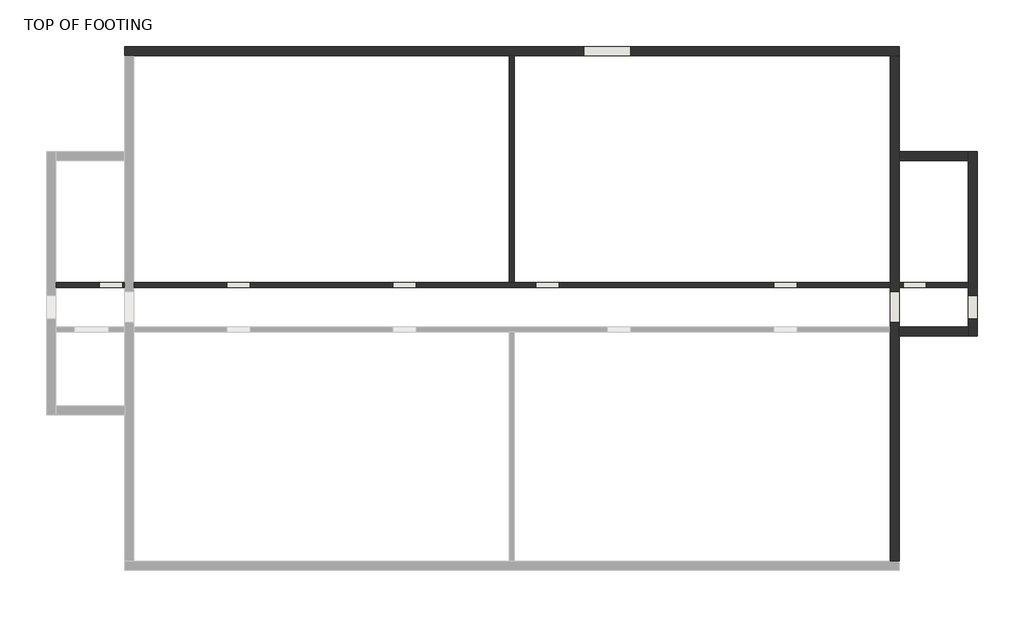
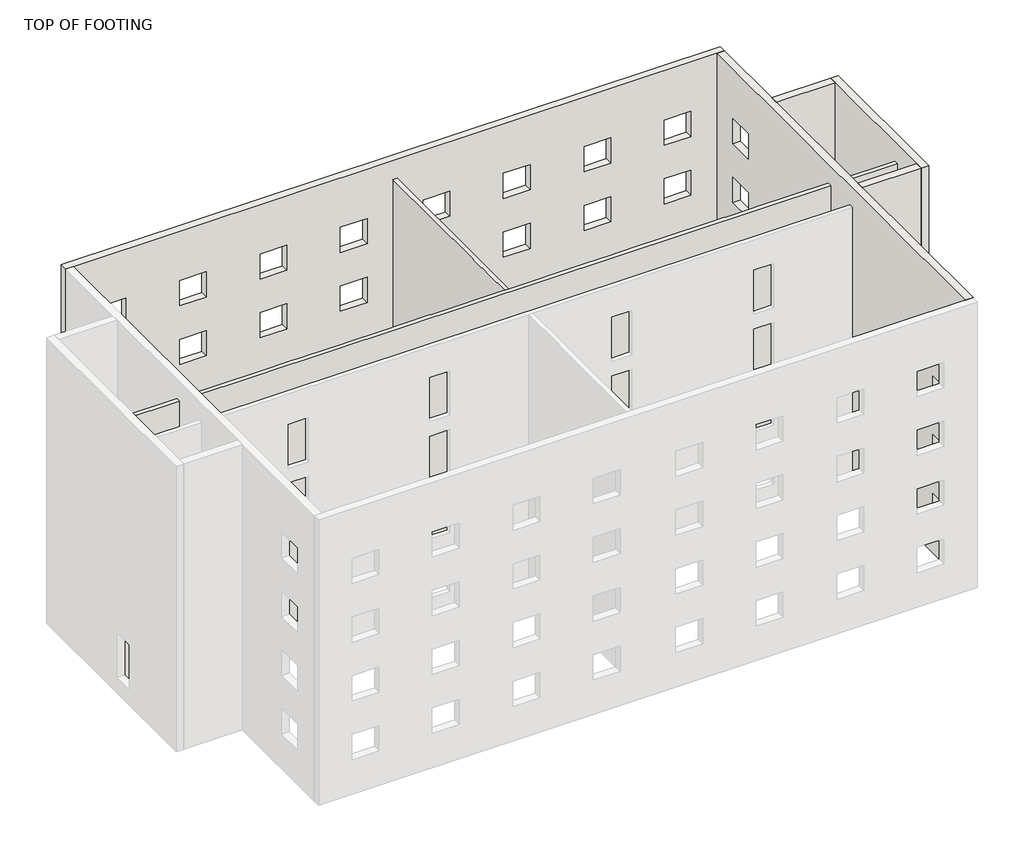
# One storey, part 2 of 2: 8 walls.
"""IFC4 building model written with IfcOpenShell, lengths in millimetres."""

from ifc_helpers import new_model, si_unit, frame, origin, place, context, project, spatial, polyline, outline, extrude, faceted_brep, element, save

model = new_model("IFC4")

# Units and contexts
model_context = context("Model", 3, world=origin())
ifc_project = project(units=[si_unit("LENGTHUNIT", "METRE", prefix="MILLI")], contexts=[model_context])

# Site, building, storey
site = spatial("IfcSite", under=ifc_project)
building = spatial("IfcBuilding", under=site)
storey = spatial("IfcBuildingStorey", under=building, Name="TOP OF FOOTING", Elevation=-762.0)

# Walls
placement = place(None, origin())
element("IfcWall", 1, ObjectType="A30A - 8\" MASONRY WALL", at=placement, inside=storey, context=model_context, shape_type="Brep", body=[
    faceted_brep([(24257.1084875, 6266.4137881, -762.0), (24257.1084875, 6266.4137881, 12141.2), (-5196.8915125, 6266.4137881, 12141.2), (-5196.8915125, 6266.4137881, -762.0), (-664.7415125, 6266.4137881, 0.0), (-1579.1415125, 6266.4137881, 0.0), (-1579.1415125, 6266.4137881, 2133.6), (-664.7415125, 6266.4137881, 2133.6), (11380.1084875, 6266.4137881, 0.0), (10465.7084875, 6266.4137881, 0.0), (10465.7084875, 6266.4137881, 2133.6), (11380.1084875, 6266.4137881, 2133.6), (5815.7584875, 6266.4137881, 0.0), (4901.3584875, 6266.4137881, 0.0), (4901.3584875, 6266.4137881, 2133.6), (5815.7584875, 6266.4137881, 2133.6), (20639.3584875, 6266.4137881, 0.0), (19724.9584875, 6266.4137881, 0.0), (19724.9584875, 6266.4137881, 2133.6), (20639.3584875, 6266.4137881, 2133.6), (-664.7415125, 6266.4137881, 2844.8), (-1579.1415125, 6266.4137881, 2844.8), (-1579.1415125, 6266.4137881, 4978.4), (-664.7415125, 6266.4137881, 4978.4), (5815.7584875, 6266.4137881, 2844.8), (4901.3584875, 6266.4137881, 2844.8), (4901.3584875, 6266.4137881, 4978.4), (5815.7584875, 6266.4137881, 4978.4), (14148.8584875, 6266.4137881, 2844.8), (13234.4584875, 6266.4137881, 2844.8), (13234.4584875, 6266.4137881, 4978.4), (14148.8584875, 6266.4137881, 4978.4), (20650.9584875, 6266.4137881, 2844.8), (19736.5584875, 6266.4137881, 2844.8), (19736.5584875, 6266.4137881, 4978.4), (20650.9584875, 6266.4137881, 4978.4), (-664.7415125, 6266.4137881, 5689.6), (-1579.1415125, 6266.4137881, 5689.6), (-1579.1415125, 6266.4137881, 7823.2), (-664.7415125, 6266.4137881, 7823.2), (5815.7584875, 6266.4137881, 5689.6), (4901.3584875, 6266.4137881, 5689.6), (4901.3584875, 6266.4137881, 7823.2), (5815.7584875, 6266.4137881, 7823.2), (14148.8584875, 6266.4137881, 5689.6), (13234.4584875, 6266.4137881, 5689.6), (13234.4584875, 6266.4137881, 7823.2), (14148.8584875, 6266.4137881, 7823.2), (20650.9584875, 6266.4137881, 5689.6), (19736.5584875, 6266.4137881, 5689.6), (19736.5584875, 6266.4137881, 7823.2), (20650.9584875, 6266.4137881, 7823.2), (-664.7415125, 6266.4137881, 8534.4), (-1579.1415125, 6266.4137881, 8534.4), (-1579.1415125, 6266.4137881, 10668.0), (-664.7415125, 6266.4137881, 10668.0), (5815.7584875, 6266.4137881, 8534.4), (4901.3584875, 6266.4137881, 8534.4), (4901.3584875, 6266.4137881, 10668.0), (5815.7584875, 6266.4137881, 10668.0), (14148.8584875, 6266.4137881, 8534.4), (13234.4584875, 6266.4137881, 8534.4), (13234.4584875, 6266.4137881, 10668.0), (14148.8584875, 6266.4137881, 10668.0), (20650.9584875, 6266.4137881, 8534.4), (19736.5584875, 6266.4137881, 8534.4), (19736.5584875, 6266.4137881, 10668.0), (20650.9584875, 6266.4137881, 10668.0), (24257.1084875, 6460.4137881, 12141.2), (24257.1084875, 6460.4137881, -762.0), (9627.5084875, 6460.4137881, -762.0), (9433.5084875, 6460.4137881, -762.0), (-5196.8915125, 6460.4137881, -762.0), (-5196.8915125, 6460.4137881, 12141.2), (-1855.3665125, 6460.4137881, 12141.2), (-1731.5415125, 6460.4137881, 12141.2), (-512.3415125, 6460.4137881, 12141.2), (-388.5165125, 6460.4137881, 12141.2), (221.0834875, 6460.4137881, 12141.2), (344.9084875, 6460.4137881, 12141.2), (2021.3084875, 6460.4137881, 12141.2), (2215.3084875, 6460.4137881, 12141.2), (3891.7084875, 6460.4137881, 12141.2), (4015.5334875, 6460.4137881, 12141.2), (4625.1334875, 6460.4137881, 12141.2), (4748.9584875, 6460.4137881, 12141.2), (5968.1584875, 6460.4137881, 12141.2), (6091.9834875, 6460.4137881, 12141.2), (9433.5084875, 6460.4137881, 12141.2), (9627.5084875, 6460.4137881, 12141.2), (12969.8334875, 6460.4137881, 12141.2), (13093.6584875, 6460.4137881, 12141.2), (14312.8584875, 6460.4137881, 12141.2), (14436.6834875, 6460.4137881, 12141.2), (15046.2834875, 6460.4137881, 12141.2), (15170.1084875, 6460.4137881, 12141.2), (16845.7084875, 6460.4137881, 12141.2), (17039.7084875, 6460.4137881, 12141.2), (18715.3084875, 6460.4137881, 12141.2), (18839.1334875, 6460.4137881, 12141.2), (19448.7334875, 6460.4137881, 12141.2), (19572.5584875, 6460.4137881, 12141.2), (20791.7584875, 6460.4137881, 12141.2), (20915.5834875, 6460.4137881, 12141.2), (-1579.1415125, 6460.4137881, 0.0), (-664.7415125, 6460.4137881, 0.0), (-664.7415125, 6460.4137881, 2133.6), (-1579.1415125, 6460.4137881, 2133.6), (10465.7084875, 6460.4137881, 0.0), (11380.1084875, 6460.4137881, 0.0), (11380.1084875, 6460.4137881, 2133.6), (10465.7084875, 6460.4137881, 2133.6), (4901.3584875, 6460.4137881, 0.0), (5815.7584875, 6460.4137881, 0.0), (5815.7584875, 6460.4137881, 2133.6), (4901.3584875, 6460.4137881, 2133.6), (19724.9584875, 6460.4137881, 0.0), (20639.3584875, 6460.4137881, 0.0), (20639.3584875, 6460.4137881, 2133.6), (19724.9584875, 6460.4137881, 2133.6), (-1579.1415125, 6460.4137881, 2844.8), (-664.7415125, 6460.4137881, 2844.8), (-664.7415125, 6460.4137881, 4978.4), (-1579.1415125, 6460.4137881, 4978.4), (4901.3584875, 6460.4137881, 2844.8), (5815.7584875, 6460.4137881, 2844.8), (5815.7584875, 6460.4137881, 4978.4), (4901.3584875, 6460.4137881, 4978.4), (13234.4584875, 6460.4137881, 2844.8), (14148.8584875, 6460.4137881, 2844.8), (14148.8584875, 6460.4137881, 4978.4), (13234.4584875, 6460.4137881, 4978.4), (19736.5584875, 6460.4137881, 2844.8), (20650.9584875, 6460.4137881, 2844.8), (20650.9584875, 6460.4137881, 4978.4), (19736.5584875, 6460.4137881, 4978.4), (-1579.1415125, 6460.4137881, 5689.6), (-664.7415125, 6460.4137881, 5689.6), (-664.7415125, 6460.4137881, 7823.2), (-1579.1415125, 6460.4137881, 7823.2), (4901.3584875, 6460.4137881, 5689.6), (5815.7584875, 6460.4137881, 5689.6), (5815.7584875, 6460.4137881, 7823.2), (4901.3584875, 6460.4137881, 7823.2), (13234.4584875, 6460.4137881, 5689.6), (14148.8584875, 6460.4137881, 5689.6), (14148.8584875, 6460.4137881, 7823.2), (13234.4584875, 6460.4137881, 7823.2), (19736.5584875, 6460.4137881, 5689.6), (20650.9584875, 6460.4137881, 5689.6), (20650.9584875, 6460.4137881, 7823.2), (19736.5584875, 6460.4137881, 7823.2), (-1579.1415125, 6460.4137881, 8534.4), (-664.7415125, 6460.4137881, 8534.4), (-664.7415125, 6460.4137881, 10668.0), (-1579.1415125, 6460.4137881, 10668.0), (4901.3584875, 6460.4137881, 8534.4), (5815.7584875, 6460.4137881, 8534.4), (5815.7584875, 6460.4137881, 10668.0), (4901.3584875, 6460.4137881, 10668.0), (13234.4584875, 6460.4137881, 8534.4), (14148.8584875, 6460.4137881, 8534.4), (14148.8584875, 6460.4137881, 10668.0), (13234.4584875, 6460.4137881, 10668.0), (19736.5584875, 6460.4137881, 8534.4), (20650.9584875, 6460.4137881, 8534.4), (20650.9584875, 6460.4137881, 10668.0), (19736.5584875, 6460.4137881, 10668.0)], [[[0, 1, 2, 3], [4, 5, 6, 7], [8, 9, 10, 11], [12, 13, 14, 15], [16, 17, 18, 19], [20, 21, 22, 23], [24, 25, 26, 27], [28, 29, 30, 31], [32, 33, 34, 35], [36, 37, 38, 39], [40, 41, 42, 43], [44, 45, 46, 47], [48, 49, 50, 51], [52, 53, 54, 55], [56, 57, 58, 59], [60, 61, 62, 63], [64, 65, 66, 67]], [[68, 69, 70, 71, 72, 73, 74, 75, 76, 77, 78, 79, 80, 81, 82, 83, 84, 85, 86, 87, 88, 89, 90, 91, 92, 93, 94, 95, 96, 97, 98, 99, 100, 101, 102, 103], [104, 105, 106, 107], [108, 109, 110, 111], [112, 113, 114, 115], [116, 117, 118, 119], [120, 121, 122, 123], [124, 125, 126, 127], [128, 129, 130, 131], [132, 133, 134, 135], [136, 137, 138, 139], [140, 141, 142, 143], [144, 145, 146, 147], [148, 149, 150, 151], [152, 153, 154, 155], [156, 157, 158, 159], [160, 161, 162, 163], [164, 165, 166, 167]], [[69, 0, 3, 72, 71, 70]], [[1, 68, 103, 102, 101, 100, 99, 98, 97, 96, 95, 94, 93, 92, 91, 90, 89, 88, 87, 86, 85, 84, 83, 82, 81, 80, 79, 78, 77, 76, 75, 74, 73, 2]], [[1, 0, 69, 68]], [[3, 2, 73, 72]], [[5, 4, 105, 104]], [[6, 5, 104, 107]], [[7, 6, 107, 106]], [[4, 7, 106, 105]], [[9, 8, 109, 108]], [[10, 9, 108, 111]], [[11, 10, 111, 110]], [[8, 11, 110, 109]], [[113, 112, 13, 12]], [[114, 113, 12, 15]], [[115, 114, 15, 14]], [[112, 115, 14, 13]], [[117, 116, 17, 16]], [[118, 117, 16, 19]], [[119, 118, 19, 18]], [[116, 119, 18, 17]], [[21, 20, 121, 120]], [[22, 21, 120, 123]], [[23, 22, 123, 122]], [[20, 23, 122, 121]], [[125, 124, 25, 24]], [[126, 125, 24, 27]], [[127, 126, 27, 26]], [[124, 127, 26, 25]], [[29, 28, 129, 128]], [[30, 29, 128, 131]], [[31, 30, 131, 130]], [[28, 31, 130, 129]], [[133, 132, 33, 32]], [[134, 133, 32, 35]], [[135, 134, 35, 34]], [[132, 135, 34, 33]], [[37, 36, 137, 136]], [[38, 37, 136, 139]], [[39, 38, 139, 138]], [[36, 39, 138, 137]], [[141, 140, 41, 40]], [[142, 141, 40, 43]], [[143, 142, 43, 42]], [[140, 143, 42, 41]], [[45, 44, 145, 144]], [[46, 45, 144, 147]], [[47, 46, 147, 146]], [[44, 47, 146, 145]], [[149, 148, 49, 48]], [[150, 149, 48, 51]], [[151, 150, 51, 50]], [[148, 151, 50, 49]], [[53, 52, 153, 152]], [[54, 53, 152, 155]], [[55, 54, 155, 154]], [[52, 55, 154, 153]], [[157, 156, 57, 56]], [[158, 157, 56, 59]], [[159, 158, 59, 58]], [[156, 159, 58, 57]], [[61, 60, 161, 160]], [[62, 61, 160, 163]], [[63, 62, 163, 162]], [[60, 63, 162, 161]], [[165, 164, 65, 64]], [[166, 165, 64, 67]], [[167, 166, 67, 66]], [[164, 167, 66, 65]]]),
    faceted_brep([(-8237.806756, 6266.4137881, 12141.2), (-8237.806756, 6266.4137881, -762.0), (-5546.8915125, 6266.4137881, -762.0), (-5546.8915125, 6266.4137881, 12141.2), (-5623.0915125, 6266.4137881, 0.0), (-6537.4915125, 6266.4137881, 0.0), (-6537.4915125, 6266.4137881, 2133.6), (-5623.0915125, 6266.4137881, 2133.6), (-5699.2915125, 6266.4137881, 2844.8), (-6613.6915125, 6266.4137881, 2844.8), (-6613.6915125, 6266.4137881, 4978.4), (-5699.2915125, 6266.4137881, 4978.4), (-8237.806756, 6460.4137881, -762.0), (-8237.806756, 6460.4137881, 12141.2), (-5546.8915125, 6460.4137881, 12141.2), (-5546.8915125, 6460.4137881, -762.0), (-6537.4915125, 6460.4137881, 0.0), (-5623.0915125, 6460.4137881, 0.0), (-5623.0915125, 6460.4137881, 2133.6), (-6537.4915125, 6460.4137881, 2133.6), (-6613.6915125, 6460.4137881, 2844.8), (-5699.2915125, 6460.4137881, 2844.8), (-5699.2915125, 6460.4137881, 4978.4), (-6613.6915125, 6460.4137881, 4978.4)], [[[0, 1, 2, 3], [4, 5, 6, 7], [8, 9, 10, 11]], [[12, 13, 14, 15], [16, 17, 18, 19], [20, 21, 22, 23]], [[1, 12, 15, 2]], [[13, 0, 3, 14]], [[1, 0, 13, 12]], [[3, 2, 15, 14]], [[17, 16, 5, 4]], [[18, 17, 4, 7]], [[19, 18, 7, 6]], [[16, 19, 6, 5]], [[21, 20, 9, 8]], [[22, 21, 8, 11]], [[23, 22, 11, 10]], [[20, 23, 10, 9]]]),
])
element("IfcWall", 2, ObjectType="A30A - 8\" MASONRY WALL", at=placement, inside=storey, context=model_context, shape_type="Brep", body=[
    faceted_brep([(9433.5084875, 15304.2137881, -762.0), (9433.5084875, 6460.4137881, -762.0), (9433.5084875, 6460.4137881, 12141.2), (9433.5084875, 8848.0137881, 12141.2), (9433.5084875, 8971.8387881, 12141.2), (9433.5084875, 15304.2137881, 12141.2), (9627.5084875, 15304.2137881, -762.0), (9627.5084875, 15304.2137881, 12141.2), (9627.5084875, 8971.8387881, 12141.2), (9627.5084875, 8848.0137881, 12141.2), (9627.5084875, 6460.4137881, 12141.2), (9627.5084875, 6460.4137881, -762.0)], [[[0, 1, 2, 3, 4, 5]], [[6, 7, 8, 9, 10, 11]], [[1, 0, 6, 11]], [[5, 4, 3, 2, 10, 9, 8, 7]], [[2, 1, 11, 10]], [[0, 5, 7, 6]]]),
])
element("IfcWall", 3, ObjectType="A30A - 8\" MASONRY WALL", at=placement, inside=storey, context=model_context, shape_type="SweptSolid", body=[
    extrude(outline(polyline([(-762.0, 27308.0237309), (12141.2, 27308.0237309), (12141.2, 24607.1084875), (-762.0, 24607.1084875), (-762.0, 27308.0237309)]), holes=[polyline([(0.0, 25673.9084875), (0.0, 24759.5084875), (2133.6, 24759.5084875), (2133.6, 25673.9084875), (0.0, 25673.9084875)]), polyline([(2844.8, 25673.9084875), (2844.8, 24759.5084875), (4978.4, 24759.5084875), (4978.4, 25673.9084875), (2844.8, 25673.9084875)])]), frame((0.0, 6266.4137881, 0.0), z_axis=(0.0, 1.0, 0.0), x_axis=(0.0, 0.0, 1.0)), (0.0, 0.0, 1.0), 194.0),
])
element("IfcWall", 4, ObjectType="Exterior - Brick on Mtl. Stud", at=placement, inside=storey, context=model_context, shape_type="Brep", body=[
    faceted_brep([(-5546.8915125, 15304.2137881, -762.0), (-5196.8915125, 15304.2137881, -762.0), (9433.5084875, 15304.2137881, -762.0), (9627.5084875, 15304.2137881, -762.0), (24257.1084875, 15304.2137881, -762.0), (24607.1084875, 15304.2137881, -762.0), (24607.1084875, 15304.2137881, 13055.6), (24257.1084875, 15304.2137881, 13055.6), (-5196.8915125, 15304.2137881, 13055.6), (-5546.8915125, 15304.2137881, 13055.6), (14151.0084875, 15304.2137881, 0.0), (12322.2084875, 15304.2137881, 0.0), (12322.2084875, 15304.2137881, 2133.6), (14151.0084875, 15304.2137881, 2133.6), (-2789.4477625, 15304.2137881, 2133.6), (-2789.4477625, 15304.2137881, 914.4), (-4008.6477625, 15304.2137881, 914.4), (-4008.6477625, 15304.2137881, 2133.6), (881.5647375, 15304.2137881, 2133.6), (881.5647375, 15304.2137881, 914.4), (-337.6352625, 15304.2137881, 914.4), (-337.6352625, 15304.2137881, 2133.6), (3355.0522375, 15304.2137881, 2133.6), (4574.2522375, 15304.2137881, 2133.6), (4574.2522375, 15304.2137881, 914.4), (3355.0522375, 15304.2137881, 914.4), (7026.0647375, 15304.2137881, 2133.6), (8245.2647375, 15304.2137881, 2133.6), (8245.2647375, 15304.2137881, 914.4), (7026.0647375, 15304.2137881, 914.4), (18179.4522375, 15304.2137881, 2133.6), (19398.6522375, 15304.2137881, 2133.6), (19398.6522375, 15304.2137881, 914.4), (18179.4522375, 15304.2137881, 914.4), (21850.4647375, 15304.2137881, 2133.6), (23069.6647375, 15304.2137881, 2133.6), (23069.6647375, 15304.2137881, 914.4), (21850.4647375, 15304.2137881, 914.4), (18179.4522375, 15304.2137881, 4978.4), (19398.6522375, 15304.2137881, 4978.4), (19398.6522375, 15304.2137881, 3759.2), (18179.4522375, 15304.2137881, 3759.2), (21850.4647375, 15304.2137881, 4978.4), (23069.6647375, 15304.2137881, 4978.4), (23069.6647375, 15304.2137881, 3759.2), (21850.4647375, 15304.2137881, 3759.2), (3355.0522375, 15304.2137881, 4978.4), (4574.2522375, 15304.2137881, 4978.4), (4574.2522375, 15304.2137881, 3759.2), (3355.0522375, 15304.2137881, 3759.2), (7026.0647375, 15304.2137881, 4978.4), (8245.2647375, 15304.2137881, 4978.4), (8245.2647375, 15304.2137881, 3759.2), (7026.0647375, 15304.2137881, 3759.2), (881.5647375, 15304.2137881, 4978.4), (881.5647375, 15304.2137881, 3759.2), (-337.6352625, 15304.2137881, 3759.2), (-337.6352625, 15304.2137881, 4978.4), (-2789.4477625, 15304.2137881, 4978.4), (-2789.4477625, 15304.2137881, 3759.2), (-4008.6477625, 15304.2137881, 3759.2), (-4008.6477625, 15304.2137881, 4978.4), (18179.4522375, 15304.2137881, 7823.2), (19398.6522375, 15304.2137881, 7823.2), (19398.6522375, 15304.2137881, 6604.0), (18179.4522375, 15304.2137881, 6604.0), (21850.4647375, 15304.2137881, 7823.2), (23069.6647375, 15304.2137881, 7823.2), (23069.6647375, 15304.2137881, 6604.0), (21850.4647375, 15304.2137881, 6604.0), (3355.0522375, 15304.2137881, 7823.2), (4574.2522375, 15304.2137881, 7823.2), (4574.2522375, 15304.2137881, 6604.0), (3355.0522375, 15304.2137881, 6604.0), (7026.0647375, 15304.2137881, 7823.2), (8245.2647375, 15304.2137881, 7823.2), (8245.2647375, 15304.2137881, 6604.0), (7026.0647375, 15304.2137881, 6604.0), (881.5647375, 15304.2137881, 7823.2), (881.5647375, 15304.2137881, 6604.0), (-337.6352625, 15304.2137881, 6604.0), (-337.6352625, 15304.2137881, 7823.2), (-2789.4477625, 15304.2137881, 7823.2), (-2789.4477625, 15304.2137881, 6604.0), (-4008.6477625, 15304.2137881, 6604.0), (-4008.6477625, 15304.2137881, 7823.2), (18179.4522375, 15304.2137881, 10668.0), (19398.6522375, 15304.2137881, 10668.0), (19398.6522375, 15304.2137881, 9448.8), (18179.4522375, 15304.2137881, 9448.8), (21850.4647375, 15304.2137881, 10668.0), (23069.6647375, 15304.2137881, 10668.0), (23069.6647375, 15304.2137881, 9448.8), (21850.4647375, 15304.2137881, 9448.8), (3355.0522375, 15304.2137881, 10668.0), (4574.2522375, 15304.2137881, 10668.0), (4574.2522375, 15304.2137881, 9448.8), (3355.0522375, 15304.2137881, 9448.8), (7026.0647375, 15304.2137881, 10668.0), (8245.2647375, 15304.2137881, 10668.0), (8245.2647375, 15304.2137881, 9448.8), (7026.0647375, 15304.2137881, 9448.8), (881.5647375, 15304.2137881, 10668.0), (881.5647375, 15304.2137881, 9448.8), (-337.6352625, 15304.2137881, 9448.8), (-337.6352625, 15304.2137881, 10668.0), (-2789.4477625, 15304.2137881, 10668.0), (-2789.4477625, 15304.2137881, 9448.8), (-4008.6477625, 15304.2137881, 9448.8), (-4008.6477625, 15304.2137881, 10668.0), (15705.9647375, 15304.2137881, 10668.0), (15705.9647375, 15304.2137881, 9448.8), (14486.7647375, 15304.2137881, 9448.8), (14486.7647375, 15304.2137881, 10668.0), (12034.9522375, 15304.2137881, 10668.0), (12034.9522375, 15304.2137881, 9448.8), (10815.7522375, 15304.2137881, 9448.8), (10815.7522375, 15304.2137881, 10668.0), (15705.9647375, 15304.2137881, 7823.2), (15705.9647375, 15304.2137881, 6604.0), (14486.7647375, 15304.2137881, 6604.0), (14486.7647375, 15304.2137881, 7823.2), (12034.9522375, 15304.2137881, 7823.2), (12034.9522375, 15304.2137881, 6604.0), (10815.7522375, 15304.2137881, 6604.0), (10815.7522375, 15304.2137881, 7823.2), (15705.9647375, 15304.2137881, 4978.4), (15705.9647375, 15304.2137881, 3759.2), (14486.7647375, 15304.2137881, 3759.2), (14486.7647375, 15304.2137881, 4978.4), (12034.9522375, 15304.2137881, 4978.4), (12034.9522375, 15304.2137881, 3759.2), (10815.7522375, 15304.2137881, 3759.2), (10815.7522375, 15304.2137881, 4978.4), (-5546.8915125, 15654.2137881, -762.0), (-5546.8915125, 15654.2137881, 13055.6), (24607.1084875, 15654.2137881, 13055.6), (24607.1084875, 15654.2137881, -762.0), (14151.0084875, 15654.2137881, 0.0), (14151.0084875, 15654.2137881, 2133.6), (12322.2084875, 15654.2137881, 2133.6), (12322.2084875, 15654.2137881, 0.0), (-2789.4477625, 15654.2137881, 2133.6), (-4008.6477625, 15654.2137881, 2133.6), (-4008.6477625, 15654.2137881, 914.4), (-2789.4477625, 15654.2137881, 914.4), (881.5647375, 15654.2137881, 2133.6), (-337.6352625, 15654.2137881, 2133.6), (-337.6352625, 15654.2137881, 914.4), (881.5647375, 15654.2137881, 914.4), (3355.0522375, 15654.2137881, 2133.6), (3355.0522375, 15654.2137881, 914.4), (4574.2522375, 15654.2137881, 914.4), (4574.2522375, 15654.2137881, 2133.6), (7026.0647375, 15654.2137881, 2133.6), (7026.0647375, 15654.2137881, 914.4), (8245.2647375, 15654.2137881, 914.4), (8245.2647375, 15654.2137881, 2133.6), (18179.4522375, 15654.2137881, 2133.6), (18179.4522375, 15654.2137881, 914.4), (19398.6522375, 15654.2137881, 914.4), (19398.6522375, 15654.2137881, 2133.6), (21850.4647375, 15654.2137881, 2133.6), (21850.4647375, 15654.2137881, 914.4), (23069.6647375, 15654.2137881, 914.4), (23069.6647375, 15654.2137881, 2133.6), (18179.4522375, 15654.2137881, 4978.4), (18179.4522375, 15654.2137881, 3759.2), (19398.6522375, 15654.2137881, 3759.2), (19398.6522375, 15654.2137881, 4978.4), (21850.4647375, 15654.2137881, 4978.4), (21850.4647375, 15654.2137881, 3759.2), (23069.6647375, 15654.2137881, 3759.2), (23069.6647375, 15654.2137881, 4978.4), (3355.0522375, 15654.2137881, 4978.4), (3355.0522375, 15654.2137881, 3759.2), (4574.2522375, 15654.2137881, 3759.2), (4574.2522375, 15654.2137881, 4978.4), (7026.0647375, 15654.2137881, 4978.4), (7026.0647375, 15654.2137881, 3759.2), (8245.2647375, 15654.2137881, 3759.2), (8245.2647375, 15654.2137881, 4978.4), (881.5647375, 15654.2137881, 4978.4), (-337.6352625, 15654.2137881, 4978.4), (-337.6352625, 15654.2137881, 3759.2), (881.5647375, 15654.2137881, 3759.2), (-2789.4477625, 15654.2137881, 4978.4), (-4008.6477625, 15654.2137881, 4978.4), (-4008.6477625, 15654.2137881, 3759.2), (-2789.4477625, 15654.2137881, 3759.2), (18179.4522375, 15654.2137881, 7823.2), (18179.4522375, 15654.2137881, 6604.0), (19398.6522375, 15654.2137881, 6604.0), (19398.6522375, 15654.2137881, 7823.2), (21850.4647375, 15654.2137881, 7823.2), (21850.4647375, 15654.2137881, 6604.0), (23069.6647375, 15654.2137881, 6604.0), (23069.6647375, 15654.2137881, 7823.2), (3355.0522375, 15654.2137881, 7823.2), (3355.0522375, 15654.2137881, 6604.0), (4574.2522375, 15654.2137881, 6604.0), (4574.2522375, 15654.2137881, 7823.2), (7026.0647375, 15654.2137881, 7823.2), (7026.0647375, 15654.2137881, 6604.0), (8245.2647375, 15654.2137881, 6604.0), (8245.2647375, 15654.2137881, 7823.2), (881.5647375, 15654.2137881, 7823.2), (-337.6352625, 15654.2137881, 7823.2), (-337.6352625, 15654.2137881, 6604.0), (881.5647375, 15654.2137881, 6604.0), (-2789.4477625, 15654.2137881, 7823.2), (-4008.6477625, 15654.2137881, 7823.2), (-4008.6477625, 15654.2137881, 6604.0), (-2789.4477625, 15654.2137881, 6604.0), (18179.4522375, 15654.2137881, 10668.0), (18179.4522375, 15654.2137881, 9448.8), (19398.6522375, 15654.2137881, 9448.8), (19398.6522375, 15654.2137881, 10668.0), (21850.4647375, 15654.2137881, 10668.0), (21850.4647375, 15654.2137881, 9448.8), (23069.6647375, 15654.2137881, 9448.8), (23069.6647375, 15654.2137881, 10668.0), (3355.0522375, 15654.2137881, 10668.0), (3355.0522375, 15654.2137881, 9448.8), (4574.2522375, 15654.2137881, 9448.8), (4574.2522375, 15654.2137881, 10668.0), (7026.0647375, 15654.2137881, 10668.0), (7026.0647375, 15654.2137881, 9448.8), (8245.2647375, 15654.2137881, 9448.8), (8245.2647375, 15654.2137881, 10668.0), (881.5647375, 15654.2137881, 10668.0), (-337.6352625, 15654.2137881, 10668.0), (-337.6352625, 15654.2137881, 9448.8), (881.5647375, 15654.2137881, 9448.8), (-2789.4477625, 15654.2137881, 10668.0), (-4008.6477625, 15654.2137881, 10668.0), (-4008.6477625, 15654.2137881, 9448.8), (-2789.4477625, 15654.2137881, 9448.8), (15705.9647375, 15654.2137881, 10668.0), (14486.7647375, 15654.2137881, 10668.0), (14486.7647375, 15654.2137881, 9448.8), (15705.9647375, 15654.2137881, 9448.8), (12034.9522375, 15654.2137881, 10668.0), (10815.7522375, 15654.2137881, 10668.0), (10815.7522375, 15654.2137881, 9448.8), (12034.9522375, 15654.2137881, 9448.8), (15705.9647375, 15654.2137881, 7823.2), (14486.7647375, 15654.2137881, 7823.2), (14486.7647375, 15654.2137881, 6604.0), (15705.9647375, 15654.2137881, 6604.0), (12034.9522375, 15654.2137881, 7823.2), (10815.7522375, 15654.2137881, 7823.2), (10815.7522375, 15654.2137881, 6604.0), (12034.9522375, 15654.2137881, 6604.0), (15705.9647375, 15654.2137881, 4978.4), (14486.7647375, 15654.2137881, 4978.4), (14486.7647375, 15654.2137881, 3759.2), (15705.9647375, 15654.2137881, 3759.2), (12034.9522375, 15654.2137881, 4978.4), (10815.7522375, 15654.2137881, 4978.4), (10815.7522375, 15654.2137881, 3759.2), (12034.9522375, 15654.2137881, 3759.2)], [[[0, 1, 2, 3, 4, 5, 6, 7, 8, 9], [10, 11, 12, 13], [14, 15, 16, 17], [18, 19, 20, 21], [22, 23, 24, 25], [26, 27, 28, 29], [30, 31, 32, 33], [34, 35, 36, 37], [38, 39, 40, 41], [42, 43, 44, 45], [46, 47, 48, 49], [50, 51, 52, 53], [54, 55, 56, 57], [58, 59, 60, 61], [62, 63, 64, 65], [66, 67, 68, 69], [70, 71, 72, 73], [74, 75, 76, 77], [78, 79, 80, 81], [82, 83, 84, 85], [86, 87, 88, 89], [90, 91, 92, 93], [94, 95, 96, 97], [98, 99, 100, 101], [102, 103, 104, 105], [106, 107, 108, 109], [110, 111, 112, 113], [114, 115, 116, 117], [118, 119, 120, 121], [122, 123, 124, 125], [126, 127, 128, 129], [130, 131, 132, 133]], [[134, 135, 136, 137], [138, 139, 140, 141], [142, 143, 144, 145], [146, 147, 148, 149], [150, 151, 152, 153], [154, 155, 156, 157], [158, 159, 160, 161], [162, 163, 164, 165], [166, 167, 168, 169], [170, 171, 172, 173], [174, 175, 176, 177], [178, 179, 180, 181], [182, 183, 184, 185], [186, 187, 188, 189], [190, 191, 192, 193], [194, 195, 196, 197], [198, 199, 200, 201], [202, 203, 204, 205], [206, 207, 208, 209], [210, 211, 212, 213], [214, 215, 216, 217], [218, 219, 220, 221], [222, 223, 224, 225], [226, 227, 228, 229], [230, 231, 232, 233], [234, 235, 236, 237], [238, 239, 240, 241], [242, 243, 244, 245], [246, 247, 248, 249], [250, 251, 252, 253], [254, 255, 256, 257], [258, 259, 260, 261]], [[5, 4, 3, 2, 1, 0, 134, 137]], [[9, 8, 7, 6, 136, 135]], [[0, 9, 135, 134]], [[6, 5, 137, 136]], [[139, 138, 10, 13]], [[140, 139, 13, 12]], [[141, 140, 12, 11]], [[138, 141, 11, 10]], [[15, 14, 142, 145]], [[16, 15, 145, 144]], [[17, 16, 144, 143]], [[14, 17, 143, 142]], [[19, 18, 146, 149]], [[20, 19, 149, 148]], [[21, 20, 148, 147]], [[18, 21, 147, 146]], [[151, 150, 22, 25]], [[152, 151, 25, 24]], [[153, 152, 24, 23]], [[150, 153, 23, 22]], [[155, 154, 26, 29]], [[156, 155, 29, 28]], [[157, 156, 28, 27]], [[154, 157, 27, 26]], [[159, 158, 30, 33]], [[160, 159, 33, 32]], [[161, 160, 32, 31]], [[158, 161, 31, 30]], [[163, 162, 34, 37]], [[164, 163, 37, 36]], [[165, 164, 36, 35]], [[162, 165, 35, 34]], [[167, 166, 38, 41]], [[168, 167, 41, 40]], [[169, 168, 40, 39]], [[166, 169, 39, 38]], [[171, 170, 42, 45]], [[172, 171, 45, 44]], [[173, 172, 44, 43]], [[170, 173, 43, 42]], [[175, 174, 46, 49]], [[176, 175, 49, 48]], [[177, 176, 48, 47]], [[174, 177, 47, 46]], [[179, 178, 50, 53]], [[180, 179, 53, 52]], [[181, 180, 52, 51]], [[178, 181, 51, 50]], [[55, 54, 182, 185]], [[56, 55, 185, 184]], [[57, 56, 184, 183]], [[54, 57, 183, 182]], [[59, 58, 186, 189]], [[60, 59, 189, 188]], [[61, 60, 188, 187]], [[58, 61, 187, 186]], [[191, 190, 62, 65]], [[192, 191, 65, 64]], [[193, 192, 64, 63]], [[190, 193, 63, 62]], [[195, 194, 66, 69]], [[196, 195, 69, 68]], [[197, 196, 68, 67]], [[194, 197, 67, 66]], [[199, 198, 70, 73]], [[200, 199, 73, 72]], [[201, 200, 72, 71]], [[198, 201, 71, 70]], [[203, 202, 74, 77]], [[204, 203, 77, 76]], [[205, 204, 76, 75]], [[202, 205, 75, 74]], [[79, 78, 206, 209]], [[80, 79, 209, 208]], [[81, 80, 208, 207]], [[78, 81, 207, 206]], [[83, 82, 210, 213]], [[84, 83, 213, 212]], [[85, 84, 212, 211]], [[82, 85, 211, 210]], [[215, 214, 86, 89]], [[216, 215, 89, 88]], [[217, 216, 88, 87]], [[214, 217, 87, 86]], [[219, 218, 90, 93]], [[220, 219, 93, 92]], [[221, 220, 92, 91]], [[218, 221, 91, 90]], [[223, 222, 94, 97]], [[224, 223, 97, 96]], [[225, 224, 96, 95]], [[222, 225, 95, 94]], [[227, 226, 98, 101]], [[228, 227, 101, 100]], [[229, 228, 100, 99]], [[226, 229, 99, 98]], [[103, 102, 230, 233]], [[104, 103, 233, 232]], [[105, 104, 232, 231]], [[102, 105, 231, 230]], [[107, 106, 234, 237]], [[108, 107, 237, 236]], [[109, 108, 236, 235]], [[106, 109, 235, 234]], [[111, 110, 238, 241]], [[112, 111, 241, 240]], [[113, 112, 240, 239]], [[110, 113, 239, 238]], [[115, 114, 242, 245]], [[116, 115, 245, 244]], [[117, 116, 244, 243]], [[114, 117, 243, 242]], [[119, 118, 246, 249]], [[120, 119, 249, 248]], [[121, 120, 248, 247]], [[118, 121, 247, 246]], [[123, 122, 250, 253]], [[124, 123, 253, 252]], [[125, 124, 252, 251]], [[122, 125, 251, 250]], [[127, 126, 254, 257]], [[128, 127, 257, 256]], [[129, 128, 256, 255]], [[126, 129, 255, 254]], [[131, 130, 258, 261]], [[132, 131, 261, 260]], [[133, 132, 260, 259]], [[130, 133, 259, 258]]]),
])
element("IfcWall", 5, ObjectType="Exterior - Brick on Mtl. Stud", at=placement, inside=storey, context=model_context, shape_type="Brep", body=[
    faceted_brep([(24607.1084875, -4401.5862119, -762.0), (24607.1084875, 4383.2137881, -762.0), (24607.1084875, 4733.2137881, -762.0), (24607.1084875, 6266.4137881, -762.0), (24607.1084875, 6460.4137881, -762.0), (24607.1084875, 11207.8006, -762.0), (24607.1084875, 11557.8006, -762.0), (24607.1084875, 15304.2137881, -762.0), (24607.1084875, 15304.2137881, 13055.6), (24607.1084875, 11557.8006, 13055.6), (24607.1084875, 11207.8006, 13055.6), (24607.1084875, 4733.2137881, 13055.6), (24607.1084875, 4383.2137881, 13055.6), (24607.1084875, -4401.5862119, 13055.6), (24607.1084875, 4890.2137881, 2133.6), (24607.1084875, 6109.4137881, 2133.6), (24607.1084875, 6109.4137881, 0.0), (24607.1084875, 4890.2137881, 0.0), (24607.1084875, 6109.4137881, 4978.4), (24607.1084875, 6109.4137881, 2844.8), (24607.1084875, 4890.2137881, 2844.8), (24607.1084875, 4890.2137881, 4978.4), (24607.1084875, 6109.4137881, 7823.2), (24607.1084875, 6109.4137881, 5689.6), (24607.1084875, 4890.2137881, 5689.6), (24607.1084875, 4890.2137881, 7823.2), (24607.1084875, 6109.4137881, 10668.0), (24607.1084875, 6109.4137881, 8534.4), (24607.1084875, 4890.2137881, 8534.4), (24607.1084875, 4890.2137881, 10668.0), (24607.1084875, 14040.607194, 2133.6), (24607.1084875, 14040.607194, 914.4), (24607.1084875, 12821.407194, 914.4), (24607.1084875, 12821.407194, 2133.6), (24607.1084875, -3040.9796179, 2133.6), (24607.1084875, -1821.7796179, 2133.6), (24607.1084875, -1821.7796179, 914.4), (24607.1084875, -3040.9796179, 914.4), (24607.1084875, -3040.9796179, 4978.4), (24607.1084875, -1821.7796179, 4978.4), (24607.1084875, -1821.7796179, 3759.2), (24607.1084875, -3040.9796179, 3759.2), (24607.1084875, 14040.607194, 4978.4), (24607.1084875, 14040.607194, 3759.2), (24607.1084875, 12821.407194, 3759.2), (24607.1084875, 12821.407194, 4978.4), (24607.1084875, -3040.9796179, 7823.2), (24607.1084875, -1821.7796179, 7823.2), (24607.1084875, -1821.7796179, 6604.0), (24607.1084875, -3040.9796179, 6604.0), (24607.1084875, 14040.607194, 7823.2), (24607.1084875, 14040.607194, 6604.0), (24607.1084875, 12821.407194, 6604.0), (24607.1084875, 12821.407194, 7823.2), (24607.1084875, -3040.9796179, 10668.0), (24607.1084875, -1821.7796179, 10668.0), (24607.1084875, -1821.7796179, 9448.8), (24607.1084875, -3040.9796179, 9448.8), (24607.1084875, 14040.607194, 10668.0), (24607.1084875, 14040.607194, 9448.8), (24607.1084875, 12821.407194, 9448.8), (24607.1084875, 12821.407194, 10668.0), (24257.1084875, -4401.5862119, -762.0), (24257.1084875, -4401.5862119, 13055.6), (24257.1084875, 15304.2137881, 13055.6), (24257.1084875, 15304.2137881, -762.0), (24257.1084875, 6460.4137881, -762.0), (24257.1084875, 6266.4137881, -762.0), (24257.1084875, 4733.2137881, -762.0), (24257.1084875, 4539.2137881, -762.0), (24257.1084875, 4890.2137881, 2133.6), (24257.1084875, 4890.2137881, 0.0), (24257.1084875, 6109.4137881, 0.0), (24257.1084875, 6109.4137881, 2133.6), (24257.1084875, 6109.4137881, 4978.4), (24257.1084875, 4890.2137881, 4978.4), (24257.1084875, 4890.2137881, 2844.8), (24257.1084875, 6109.4137881, 2844.8), (24257.1084875, 6109.4137881, 7823.2), (24257.1084875, 4890.2137881, 7823.2), (24257.1084875, 4890.2137881, 5689.6), (24257.1084875, 6109.4137881, 5689.6), (24257.1084875, 6109.4137881, 10668.0), (24257.1084875, 4890.2137881, 10668.0), (24257.1084875, 4890.2137881, 8534.4), (24257.1084875, 6109.4137881, 8534.4), (24257.1084875, 14040.607194, 2133.6), (24257.1084875, 12821.407194, 2133.6), (24257.1084875, 12821.407194, 914.4), (24257.1084875, 14040.607194, 914.4), (24257.1084875, -3040.9796179, 2133.6), (24257.1084875, -3040.9796179, 914.4), (24257.1084875, -1821.7796179, 914.4), (24257.1084875, -1821.7796179, 2133.6), (24257.1084875, -3040.9796179, 4978.4), (24257.1084875, -3040.9796179, 3759.2), (24257.1084875, -1821.7796179, 3759.2), (24257.1084875, -1821.7796179, 4978.4), (24257.1084875, 14040.607194, 4978.4), (24257.1084875, 12821.407194, 4978.4), (24257.1084875, 12821.407194, 3759.2), (24257.1084875, 14040.607194, 3759.2), (24257.1084875, -3040.9796179, 7823.2), (24257.1084875, -3040.9796179, 6604.0), (24257.1084875, -1821.7796179, 6604.0), (24257.1084875, -1821.7796179, 7823.2), (24257.1084875, 14040.607194, 7823.2), (24257.1084875, 12821.407194, 7823.2), (24257.1084875, 12821.407194, 6604.0), (24257.1084875, 14040.607194, 6604.0), (24257.1084875, -3040.9796179, 10668.0), (24257.1084875, -3040.9796179, 9448.8), (24257.1084875, -1821.7796179, 9448.8), (24257.1084875, -1821.7796179, 10668.0), (24257.1084875, 14040.607194, 10668.0), (24257.1084875, 12821.407194, 10668.0), (24257.1084875, 12821.407194, 9448.8), (24257.1084875, 14040.607194, 9448.8)], [[[0, 1, 2, 3, 4, 5, 6, 7, 8, 9, 10, 11, 12, 13], [14, 15, 16, 17], [18, 19, 20, 21], [22, 23, 24, 25], [26, 27, 28, 29], [30, 31, 32, 33], [34, 35, 36, 37], [38, 39, 40, 41], [42, 43, 44, 45], [46, 47, 48, 49], [50, 51, 52, 53], [54, 55, 56, 57], [58, 59, 60, 61]], [[62, 63, 64, 65, 66, 67, 68, 69], [70, 71, 72, 73], [74, 75, 76, 77], [78, 79, 80, 81], [82, 83, 84, 85], [86, 87, 88, 89], [90, 91, 92, 93], [94, 95, 96, 97], [98, 99, 100, 101], [102, 103, 104, 105], [106, 107, 108, 109], [110, 111, 112, 113], [114, 115, 116, 117]], [[7, 6, 5, 4, 3, 2, 1, 0, 62, 69, 68, 67, 66, 65]], [[13, 12, 11, 10, 9, 8, 64, 63]], [[0, 13, 63, 62]], [[8, 7, 65, 64]], [[71, 70, 14, 17]], [[72, 71, 17, 16]], [[73, 72, 16, 15]], [[70, 73, 15, 14]], [[19, 18, 74, 77]], [[20, 19, 77, 76]], [[21, 20, 76, 75]], [[18, 21, 75, 74]], [[23, 22, 78, 81]], [[24, 23, 81, 80]], [[25, 24, 80, 79]], [[22, 25, 79, 78]], [[27, 26, 82, 85]], [[28, 27, 85, 84]], [[29, 28, 84, 83]], [[26, 29, 83, 82]], [[31, 30, 86, 89]], [[32, 31, 89, 88]], [[33, 32, 88, 87]], [[30, 33, 87, 86]], [[91, 90, 34, 37]], [[92, 91, 37, 36]], [[93, 92, 36, 35]], [[90, 93, 35, 34]], [[95, 94, 38, 41]], [[96, 95, 41, 40]], [[97, 96, 40, 39]], [[94, 97, 39, 38]], [[43, 42, 98, 101]], [[44, 43, 101, 100]], [[45, 44, 100, 99]], [[42, 45, 99, 98]], [[103, 102, 46, 49]], [[104, 103, 49, 48]], [[105, 104, 48, 47]], [[102, 105, 47, 46]], [[51, 50, 106, 109]], [[52, 51, 109, 108]], [[53, 52, 108, 107]], [[50, 53, 107, 106]], [[111, 110, 54, 57]], [[112, 111, 57, 56]], [[113, 112, 56, 55]], [[110, 113, 55, 54]], [[59, 58, 114, 117]], [[60, 59, 117, 116]], [[61, 60, 116, 115]], [[58, 61, 115, 114]]]),
])
element("IfcWall", 6, ObjectType="Exterior - Brick on Mtl. Stud", at=placement, inside=storey, context=model_context, shape_type="Brep", body=[
    faceted_brep([(27658.0237309, 4383.2137881, -762.0), (27658.0237309, 11557.8006, -762.0), (27658.0237309, 11557.8006, 13055.6), (27658.0237309, 4383.2137881, 13055.6), (27658.0237309, 5957.0137881, 0.0), (27658.0237309, 5042.6137881, 0.0), (27658.0237309, 5042.6137881, 2133.6), (27658.0237309, 5957.0137881, 2133.6), (27308.0237309, 4383.2137881, -762.0), (27308.0237309, 4383.2137881, 13055.6), (27308.0237309, 4733.2137881, 13055.6), (27308.0237309, 11207.8006, 13055.6), (27308.0237309, 11557.8006, 13055.6), (27308.0237309, 11557.8006, -762.0), (27308.0237309, 11207.8006, -762.0), (27308.0237309, 6460.4137881, -762.0), (27308.0237309, 6266.4137881, -762.0), (27308.0237309, 4733.2137881, -762.0), (27308.0237309, 5957.0137881, 0.0), (27308.0237309, 5957.0137881, 2133.6), (27308.0237309, 5042.6137881, 2133.6), (27308.0237309, 5042.6137881, 0.0)], [[[0, 1, 2, 3], [4, 5, 6, 7]], [[8, 9, 10, 11, 12, 13, 14, 15, 16, 17], [18, 19, 20, 21]], [[1, 0, 8, 17, 16, 15, 14, 13]], [[3, 2, 12, 11, 10, 9]], [[2, 1, 13, 12]], [[0, 3, 9, 8]], [[5, 4, 18, 21]], [[6, 5, 21, 20]], [[7, 6, 20, 19]], [[4, 7, 19, 18]]]),
])
element("IfcWall", 7, ObjectType="Exterior - Brick on Mtl. Stud", at=placement, inside=storey, context=model_context, shape_type="SweptSolid", body=[
    extrude(outline(polyline([(24607.1084875, 11557.8006), (27308.0237309, 11557.8006), (27308.0237309, 11207.8006), (24607.1084875, 11207.8006), (24607.1084875, 11557.8006)])), frame((0.0, 0.0, -762.0), z_axis=(0.0, 0.0, 1.0), x_axis=(1.0, 0.0, 0.0)), (0.0, 0.0, 1.0), 13817.6),
])
element("IfcWall", 8, ObjectType="Exterior - Brick on Mtl. Stud", at=placement, inside=storey, context=model_context, shape_type="SweptSolid", body=[
    extrude(outline(polyline([(24607.1084875, 4733.2137881), (27308.0237309, 4733.2137881), (27308.0237309, 4383.2137881), (24607.1084875, 4383.2137881), (24607.1084875, 4733.2137881)])), frame((0.0, 0.0, -762.0), z_axis=(0.0, 0.0, 1.0), x_axis=(1.0, 0.0, 0.0)), (0.0, 0.0, 1.0), 13817.6),
])

save(model, "model.ifc")
